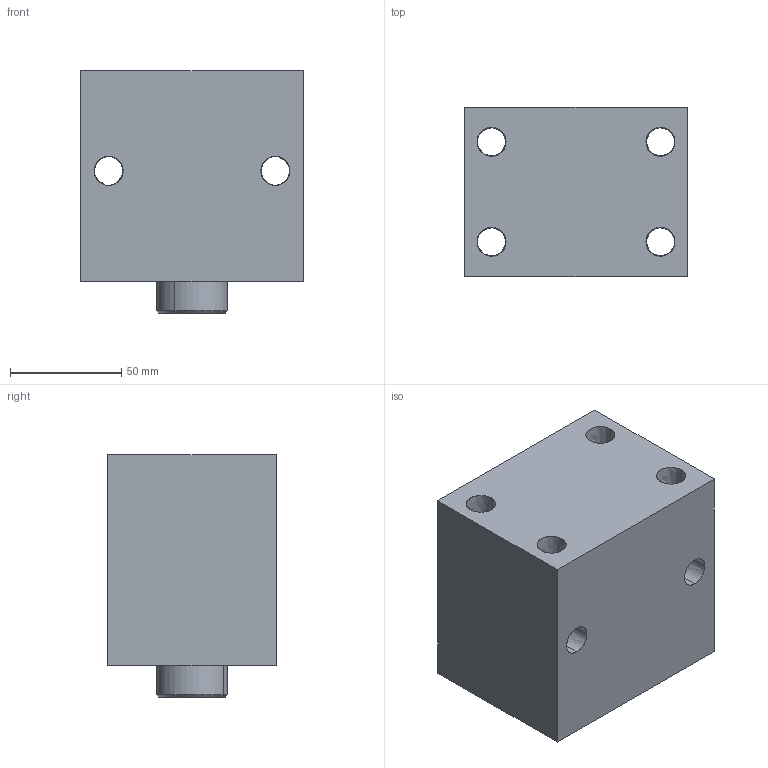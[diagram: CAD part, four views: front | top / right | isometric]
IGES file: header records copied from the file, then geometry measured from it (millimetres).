
Start section: SolidWorks IGES file using analytic representation for surfaces
Global section: file name: D:\karuppas\Clasp\3D model\Block cylinder B01C-Female thread\B01C-425F\Block cylinder_B01C-425F.IGS; native system: SolidWorks 2017; preprocessor: SolidWorks 2017; author: pc; date: 220710.000038; units: millimetre
Bounding box: 100 x 76 x 109 mm (x, y, z)
Surface area: 81434.7 mm2 (no closed solid volume)
Topology: 0 solids, 0 shells, 228 faces, 3976 edges, 3970 vertices
Faces by surface type: bspline 188, revolution 40
